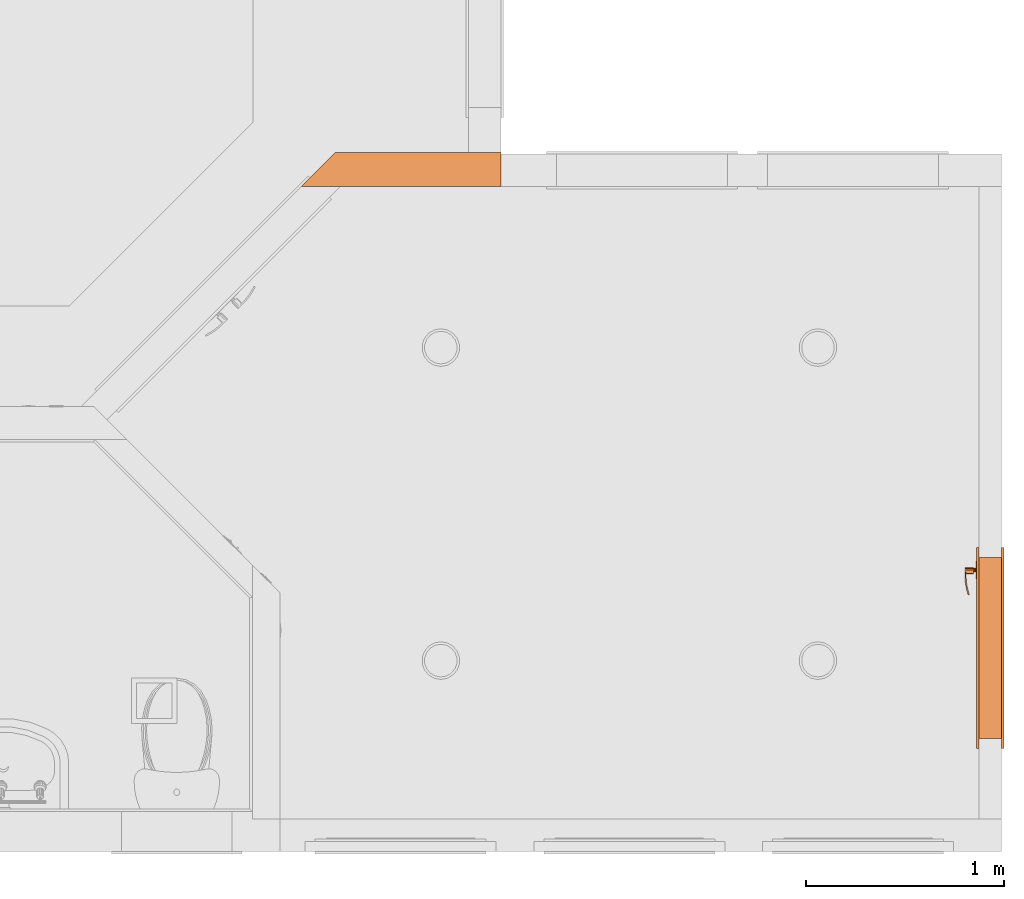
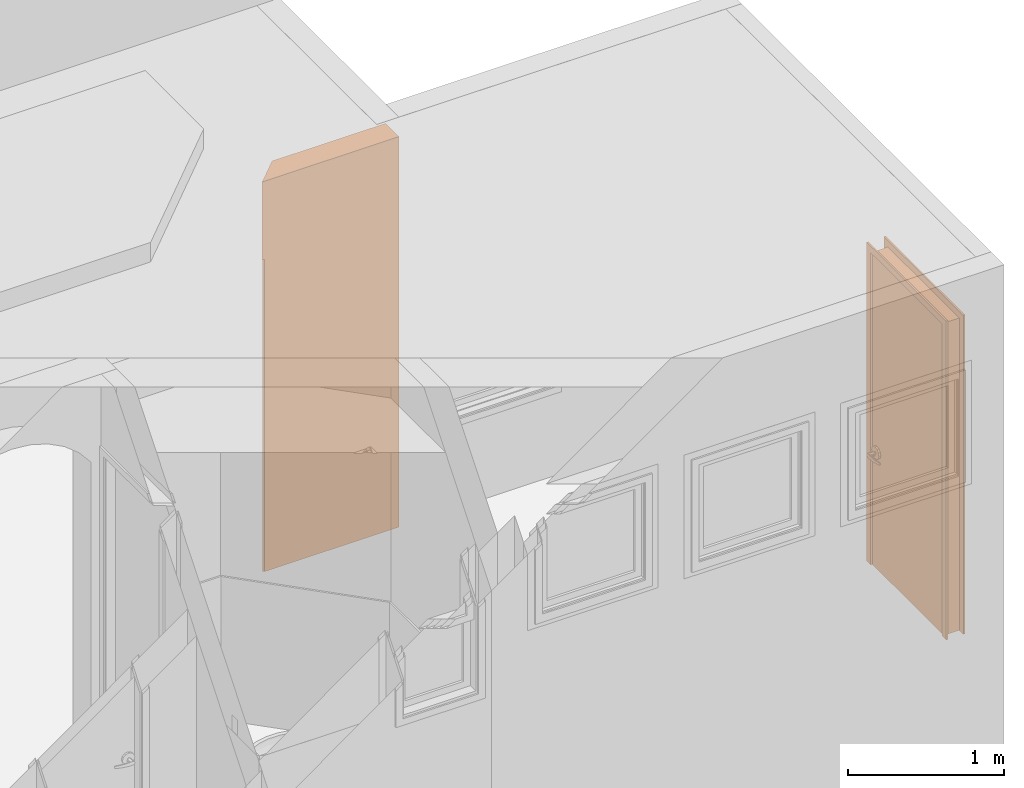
# One storey, part 100 of 103: 2 proxies.
"""IFC2X3 building model written with IfcOpenShell, lengths in inches."""

from ifc_helpers import new_model, entity, si_unit, converted_unit, derived_unit, money_unit, direction, frame, origin_with_axes, place, context, subcontext, project, spatial, open_shell, faceted_brep, surface_model, material, type_object, element, save


model = new_model("IFC2X3")

# Units and contexts
model_context = context("Model", 3, precision=0.00039370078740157, world=origin_with_axes(), true_north=direction((0.0, 1.0)))
plan_context = context("Plan", 3, precision=0.00039370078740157, world=origin_with_axes(), true_north=direction((0.0, 1.0)))
body_context = subcontext(model_context, "Body", "Model", "MODEL_VIEW")
ifc_project = project(units=[converted_unit("LENGTHUNIT", "INCH", entity("IfcPositiveLengthMeasure", 0.0254), si_unit("LENGTHUNIT", "METRE"), dimensions=[1, 0, 0, 0, 0, 0, 0]), converted_unit("AREAUNIT", "SQUARE_FOOT", entity("IfcPositiveLengthMeasure", 0.09290304), si_unit("AREAUNIT", "SQUARE_METRE"), dimensions=[2, 0, 0, 0, 0, 0, 0]), si_unit("PLANEANGLEUNIT", "RADIAN"), si_unit("SOLIDANGLEUNIT", "STERADIAN"), money_unit("USD"), converted_unit("TIMEUNIT", "Year", entity("IfcTimeMeasure", 31557600.0), si_unit("TIMEUNIT", "SECOND"), dimensions=[0, 0, 1, 0, 0, 0, 0]), si_unit("MASSUNIT", "GRAM", prefix="KILO"), si_unit("THERMODYNAMICTEMPERATUREUNIT", "DEGREE_CELSIUS"), si_unit("LUMINOUSINTENSITYUNIT", "LUMEN"), si_unit("ENERGYUNIT", "JOULE", prefix="MEGA"), derived_unit("SPECIFICHEATCAPACITYUNIT", [(si_unit("ENERGYUNIT", "JOULE"), 1), (si_unit("MASSUNIT", "GRAM", prefix="KILO"), -1), (si_unit("THERMODYNAMICTEMPERATUREUNIT", "KELVIN"), -1)])], contexts=[model_context, plan_context])

# Site, building, storey
site_placement = place(None, origin_with_axes())
site = spatial("IfcSite", under=ifc_project, at=site_placement, Name="Site", CompositionType="ELEMENT")
building_placement = place(site_placement, origin_with_axes())
building = spatial("IfcBuilding", under=site, at=building_placement, Name="Building", CompositionType="ELEMENT")
storey_placement = place(building_placement, frame((0.0, 0.0, 127.9999999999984), z_axis=(0.0, 0.0, 1.0), x_axis=(1.0, 0.0, 0.0)))
storey = spatial("IfcBuildingStorey", under=building, at=storey_placement, Name="Second Floor", CompositionType="ELEMENT", Elevation=128.0)

# Proxies
building_element_proxy_type_1 = type_object("IfcBuildingElementProxyType", Name="D1", PredefinedType="NOTDEFINED")
proxy_1_placement = place(storey_placement, frame((522.9999999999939, 22.49999999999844, 0.0), z_axis=(0.0, 0.0, 1.0), x_axis=(0.0, 1.0, 0.0)))
element("IfcBuildingElementProxy", 1, at=proxy_1_placement, inside=storey, type_object=building_element_proxy_type_1, Name="D-07", context=body_context, shape_type="SurfaceModel", body=[
    faceted_brep([(37.99999999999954, -4.999999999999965, 0.0), (35.99999999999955, -4.999999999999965, 0.0), (35.99999999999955, -4.499999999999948, 0.0), (37.99999999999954, -4.499999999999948, 0.0), (37.99999999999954, -4.999999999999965, 97.99999999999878), (35.99999999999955, -4.999999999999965, 95.9999999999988), (35.99999999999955, -4.499999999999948, 95.9999999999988), (37.99999999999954, -4.499999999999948, 97.99999999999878)], [[[0, 1, 2, 3]], [[0, 4, 5, 1]], [[1, 5, 6, 2]], [[3, 2, 6, 7]], [[4, 0, 3, 7]], [[5, 4, 7, 6]]]),
    faceted_brep([(-1.999999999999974, -4.999999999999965, 97.99999999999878), (0.0, -4.999999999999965, 95.9999999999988), (0.0, -4.499999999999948, 95.9999999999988), (-1.999999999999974, -4.499999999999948, 97.99999999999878), (-1.999999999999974, -4.999999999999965, 0.0), (0.0, -4.999999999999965, 0.0), (0.0, -4.499999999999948, 0.0), (-1.999999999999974, -4.499999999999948, 0.0)], [[[0, 1, 2, 3]], [[0, 4, 5, 1]], [[1, 5, 6, 2]], [[3, 2, 6, 7]], [[4, 0, 3, 7]], [[5, 4, 7, 6]]]),
    faceted_brep([(37.99999999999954, -4.999999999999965, 97.99999999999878), (35.99999999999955, -4.999999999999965, 95.9999999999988), (35.99999999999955, -4.499999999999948, 95.9999999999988), (37.99999999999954, -4.499999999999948, 97.99999999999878), (-1.999999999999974, -4.999999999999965, 97.99999999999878), (0.0, -4.999999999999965, 95.9999999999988), (0.0, -4.499999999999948, 95.9999999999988), (-1.999999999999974, -4.499999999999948, 97.99999999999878)], [[[0, 1, 2, 3]], [[0, 4, 5, 1]], [[1, 5, 6, 2]], [[3, 2, 6, 7]], [[4, 0, 3, 7]], [[5, 4, 7, 6]]]),
    faceted_brep([(37.99999999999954, 0.5000000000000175, 0.0), (37.99999999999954, 0.0, 0.0), (35.99999999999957, 0.0, 0.0), (35.99999999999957, 0.5000000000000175, 0.0), (37.99999999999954, 0.4999999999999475, 97.99999999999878), (37.99999999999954, 0.0, 97.99999999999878), (35.99999999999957, 0.0, 95.9999999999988), (35.99999999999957, 0.4999999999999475, 95.9999999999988)], [[[0, 1, 2, 3]], [[4, 5, 1, 0]], [[1, 5, 6, 2]], [[3, 2, 6, 7]], [[0, 3, 7, 4]], [[7, 6, 5, 4]]]),
    faceted_brep([(-1.999999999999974, 0.4999999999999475, 97.99999999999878), (-1.999999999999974, 0.0, 97.99999999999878), (0.0, 0.0, 95.9999999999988), (0.0, 0.4999999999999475, 95.9999999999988), (-1.999999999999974, 0.5000000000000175, 0.0), (-1.999999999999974, 0.0, 0.0), (0.0, 0.0, 0.0), (0.0, 0.5000000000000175, 0.0)], [[[0, 1, 2, 3]], [[4, 5, 1, 0]], [[1, 5, 6, 2]], [[3, 2, 6, 7]], [[0, 3, 7, 4]], [[7, 6, 5, 4]]]),
    faceted_brep([(37.99999999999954, 0.4999999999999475, 97.99999999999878), (37.99999999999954, 0.0, 97.99999999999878), (35.99999999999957, 0.0, 95.9999999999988), (35.99999999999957, 0.4999999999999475, 95.9999999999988), (-1.999999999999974, 0.4999999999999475, 97.99999999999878), (-1.999999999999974, 0.0, 97.99999999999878), (0.0, 0.0, 95.9999999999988), (0.0, 0.4999999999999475, 95.9999999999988)], [[[0, 1, 2, 3]], [[4, 5, 1, 0]], [[1, 5, 6, 2]], [[3, 2, 6, 7]], [[0, 3, 7, 4]], [[7, 6, 5, 4]]]),
    faceted_brep([(35.99999999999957, 0.0, 0.0), (35.99999999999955, -4.499999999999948, 0.0), (35.49999999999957, -4.499999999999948, 0.0), (35.49999999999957, 0.0, 0.0), (35.99999999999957, 0.0, 95.49999999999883), (35.99999999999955, -4.499999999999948, 95.49999999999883), (35.49999999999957, -4.499999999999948, 95.49999999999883), (35.49999999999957, 0.0, 95.49999999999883)], [[[0, 1, 2, 3]], [[4, 5, 1, 0]], [[1, 5, 6, 2]], [[3, 2, 6, 7]], [[0, 3, 7, 4]], [[7, 6, 5, 4]]]),
    faceted_brep([(0.0, 0.0, 0.0), (0.0, -4.499999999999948, 0.0), (0.0, -4.499999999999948, 95.49999999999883), (0.0, 0.0, 95.49999999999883), (0.4999999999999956, 0.0, 0.0), (0.4999999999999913, -4.499999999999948, 0.0), (0.4999999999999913, -4.499999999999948, 95.49999999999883), (0.4999999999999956, 0.0, 95.49999999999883)], [[[0, 1, 2, 3]], [[4, 5, 1, 0]], [[1, 5, 6, 2]], [[3, 2, 6, 7]], [[0, 3, 7, 4]], [[7, 6, 5, 4]]]),
    faceted_brep([(35.99999999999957, 0.0, 95.9999999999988), (35.99999999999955, -4.499999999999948, 95.9999999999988), (35.99999999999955, -4.499999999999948, 95.49999999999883), (35.99999999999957, 0.0, 95.49999999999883), (0.0, 0.0, 95.9999999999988), (0.0, -4.499999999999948, 95.9999999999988), (0.0, -4.499999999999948, 95.49999999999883), (0.4999999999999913, -4.499999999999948, 95.49999999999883), (35.49999999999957, -4.499999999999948, 95.49999999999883), (35.49999999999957, 0.0, 95.49999999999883), (0.4999999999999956, 0.0, 95.49999999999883), (0.0, 0.0, 95.49999999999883)], [[[0, 1, 2, 3]], [[4, 5, 1, 0]], [[1, 5, 6, 7, 8, 2]], [[3, 2, 8, 9]], [[0, 3, 9, 10, 11, 4]], [[11, 6, 5, 4]], [[10, 7, 6, 11]], [[9, 8, 7, 10]]]),
    surface_model("IfcShellBasedSurfaceModel", [(31.94865528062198, -2.340551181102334, 36.89566929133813), (31.94865528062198, -2.336614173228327, 36.89566929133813), (31.70866141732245, -2.336614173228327, 35.99999999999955), (31.70866141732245, -2.340551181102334, 35.99999999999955), (32.60433070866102, -2.340551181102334, 37.55134471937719), (32.60433070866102, -2.336614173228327, 37.55134471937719), (31.94865528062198, -1.753937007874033, 36.89566929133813), (31.70866141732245, -1.753937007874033, 35.99999999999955), (31.94865528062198, -2.336614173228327, 35.104330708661), (31.94865528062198, -2.340551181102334, 35.104330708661), (32.60433070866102, -2.340551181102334, 34.44865528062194), (33.49999999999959, -2.340551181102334, 34.20866141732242), (34.39566929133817, -2.340551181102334, 34.44865528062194), (35.05134471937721, -2.340551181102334, 35.104330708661), (35.29133858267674, -2.340551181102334, 35.99999999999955), (35.05134471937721, -2.340551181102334, 36.89566929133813), (34.39566929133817, -2.340551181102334, 37.55134471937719), (33.49999999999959, -2.340551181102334, 37.79133858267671), (33.49999999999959, -2.336614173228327, 37.79133858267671), (32.60433070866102, -1.753937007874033, 37.55134471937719), (31.94865528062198, -1.749999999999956, 36.89566929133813), (31.70866141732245, -1.749999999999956, 35.99999999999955), (31.94865528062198, -1.753937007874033, 35.104330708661), (32.60433070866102, -2.336614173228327, 34.44865528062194), (33.49999999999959, -2.336614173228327, 34.20866141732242), (34.39566929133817, -2.336614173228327, 34.44865528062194), (35.05134471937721, -2.336614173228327, 35.104330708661), (35.29133858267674, -2.336614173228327, 35.99999999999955), (35.05134471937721, -2.336614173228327, 36.89566929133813), (34.39566929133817, -2.336614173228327, 37.55134471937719), (33.49999999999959, -1.753937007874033, 37.79133858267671), (32.60433070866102, -1.749999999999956, 37.55134471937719), (31.94865528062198, -1.749999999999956, 35.104330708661), (32.60433070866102, -1.753937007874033, 34.44865528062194), (33.49999999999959, -1.753937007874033, 34.20866141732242), (34.39566929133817, -1.753937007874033, 34.44865528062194), (35.05134471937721, -1.753937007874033, 35.104330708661), (35.29133858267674, -1.753937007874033, 35.99999999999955), (35.05134471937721, -1.753937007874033, 36.89566929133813), (34.39566929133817, -1.753937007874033, 37.55134471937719), (33.49999999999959, -1.749999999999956, 37.79133858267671), (32.60433070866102, -1.749999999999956, 34.44865528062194), (33.49999999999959, -1.749999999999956, 34.20866141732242), (34.39566929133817, -1.749999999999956, 34.44865528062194), (35.05134471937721, -1.749999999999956, 35.104330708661), (35.29133858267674, -1.749999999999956, 35.99999999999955), (35.05134471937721, -1.749999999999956, 36.89566929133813), (34.39566929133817, -1.749999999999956, 37.55134471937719)], [open_shell([[[0, 1, 2, 3]], [[4, 5, 1, 0]], [[1, 6, 7, 2]], [[3, 2, 8, 9]], [[3, 9, 10, 11, 12, 13, 14, 15, 16, 17, 4, 0]], [[17, 18, 5, 4]], [[5, 19, 6, 1]], [[6, 20, 21, 7]], [[2, 7, 22, 8]], [[9, 8, 23, 10]], [[10, 23, 24, 11]], [[11, 24, 25, 12]], [[12, 25, 26, 13]], [[13, 26, 27, 14]], [[14, 27, 28, 15]], [[15, 28, 29, 16]], [[16, 29, 18, 17]], [[18, 30, 19, 5]], [[19, 31, 20, 6]], [[7, 21, 32, 22]], [[8, 22, 33, 23]], [[23, 33, 34, 24]], [[24, 34, 35, 25]], [[25, 35, 36, 26]], [[26, 36, 37, 27]], [[27, 37, 38, 28]], [[28, 38, 39, 29]], [[29, 39, 30, 18]], [[30, 40, 31, 19]], [[22, 32, 41, 33]], [[33, 41, 42, 34]], [[34, 42, 43, 35]], [[35, 43, 44, 36]], [[36, 44, 45, 37]], [[37, 45, 46, 38]], [[38, 46, 47, 39]], [[39, 47, 40, 30]]])]),
    faceted_brep([(33.69685039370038, -2.340551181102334, 35.65904511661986), (33.49999999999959, -2.340551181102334, 35.60629921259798), (33.30314960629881, -2.340551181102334, 35.65904511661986), (33.15904511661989, -2.340551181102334, 35.80314960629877), (33.10629921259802, -2.340551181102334, 35.99999999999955), (33.15904511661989, -2.340551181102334, 36.19685039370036), (33.30314960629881, -2.340551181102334, 36.34095488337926), (33.49999999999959, -2.340551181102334, 36.39370078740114), (33.69685039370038, -2.340551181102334, 36.34095488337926), (33.84095488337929, -2.340551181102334, 36.19685039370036), (33.89370078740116, -2.340551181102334, 35.99999999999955), (33.84095488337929, -2.340551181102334, 35.80314960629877), (33.69685039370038, -2.852362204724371, 35.65904511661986), (33.49999999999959, -2.852362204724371, 35.60629921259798), (33.30314960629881, -2.852362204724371, 35.65904511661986), (33.15904511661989, -2.852362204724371, 35.80314960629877), (33.10629921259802, -2.852362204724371, 35.99999999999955), (33.15904511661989, -2.852362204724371, 36.19685039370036), (33.30314960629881, -2.852362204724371, 36.34095488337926), (33.49999999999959, -2.852362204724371, 36.39370078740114), (33.69685039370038, -2.852362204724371, 36.34095488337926), (33.84095488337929, -2.852362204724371, 36.19685039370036), (33.89370078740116, -2.852362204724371, 35.99999999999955), (33.84095488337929, -2.852362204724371, 35.80314960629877)], [[[0, 1, 2, 3, 4, 5, 6, 7, 8, 9, 10, 11]], [[0, 12, 13, 1]], [[1, 13, 14, 2]], [[2, 14, 15, 3]], [[3, 15, 16, 4]], [[4, 16, 17, 5]], [[5, 17, 18, 6]], [[6, 18, 19, 7]], [[7, 19, 20, 8]], [[8, 20, 21, 9]], [[9, 21, 22, 10]], [[10, 22, 23, 11]], [[11, 23, 12, 0]], [[12, 23, 22, 21, 20, 19, 18, 17, 16, 15, 14, 13]]]),
    faceted_brep([(33.49999999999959, -2.852362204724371, 36.55118110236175), (33.49999999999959, -4.269685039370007, 36.55118110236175), (33.77559055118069, -4.269685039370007, 36.47733683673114), (33.77559055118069, -2.852362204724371, 36.47733683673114), (33.10629921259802, -2.852362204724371, 36.47244094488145), (33.10629921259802, -4.269685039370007, 36.47244094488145), (32.87352117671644, -4.269685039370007, 36.35358914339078), (32.73705189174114, -4.269685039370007, 36.13068221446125), (32.73705189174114, -4.269685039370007, 35.86931778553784), (32.87352117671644, -4.269685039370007, 35.64641085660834), (33.10629921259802, -4.269685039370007, 35.52755905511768), (33.49999999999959, -4.269685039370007, 35.44881889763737), (33.77559055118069, -4.269685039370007, 35.52266316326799), (33.97733683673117, -4.269685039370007, 35.72440944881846), (34.05118110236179, -4.269685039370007, 35.99999999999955), (33.97733683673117, -4.269685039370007, 36.27559055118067), (33.97733683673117, -2.852362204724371, 36.27559055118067), (34.05118110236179, -2.852362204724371, 35.99999999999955), (33.97733683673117, -2.852362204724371, 35.72440944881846), (33.77559055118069, -2.852362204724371, 35.52266316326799), (33.49999999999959, -2.852362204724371, 35.44881889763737), (33.10629921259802, -2.852362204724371, 35.52755905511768), (32.87352117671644, -2.852362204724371, 35.64641085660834), (32.73705189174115, -2.852362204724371, 35.86931778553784), (32.73705189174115, -2.852362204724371, 36.13068221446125), (32.87352117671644, -2.852362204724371, 36.35358914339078)], [[[0, 1, 2, 3]], [[4, 5, 1, 0]], [[1, 5, 6, 7, 8, 9, 10, 11, 12, 13, 14, 15, 2]], [[3, 2, 15, 16]], [[0, 3, 16, 17, 18, 19, 20, 21, 22, 23, 24, 25, 4]], [[25, 6, 5, 4]], [[24, 7, 6, 25]], [[23, 8, 7, 24]], [[22, 9, 8, 23]], [[21, 10, 9, 22]], [[20, 11, 10, 21]], [[19, 12, 11, 20]], [[18, 13, 12, 19]], [[17, 14, 13, 18]], [[16, 15, 14, 17]]]),
    surface_model("IfcShellBasedSurfaceModel", [(33.49999999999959, -4.269685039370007, 36.55118110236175), (33.49999999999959, -4.545275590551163, 36.55118110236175), (33.77559055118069, -4.545275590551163, 36.47733683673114), (33.77559055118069, -4.269685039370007, 36.47733683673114), (32.51574803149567, -4.269685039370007, 36.55118110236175), (32.51574803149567, -4.545275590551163, 36.55118110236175), (32.51574803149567, -4.545275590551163, 35.44881889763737), (33.49999999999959, -4.545275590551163, 35.44881889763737), (33.77559055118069, -4.545275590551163, 35.52266316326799), (33.97733683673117, -4.545275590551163, 35.72440944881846), (34.05118110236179, -4.545275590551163, 35.99999999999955), (33.97733683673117, -4.545275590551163, 36.27559055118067), (33.97733683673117, -4.269685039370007, 36.27559055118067), (34.05118110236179, -4.269685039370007, 35.99999999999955), (33.97733683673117, -4.269685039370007, 35.72440944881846), (33.77559055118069, -4.269685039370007, 35.52266316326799), (33.49999999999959, -4.269685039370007, 35.44881889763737), (32.51574803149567, -4.269685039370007, 35.44881889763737)], [open_shell([[[0, 1, 2, 3]], [[4, 5, 1, 0]], [[1, 5, 6, 7, 8, 9, 10, 11, 2]], [[3, 2, 11, 12]], [[0, 3, 12, 13, 14, 15, 16, 17, 4]], [[16, 7, 6, 17]], [[15, 8, 7, 16]], [[14, 9, 8, 15]], [[13, 10, 9, 14]], [[12, 11, 10, 13]]])]),
    surface_model("IfcShellBasedSurfaceModel", [(32.51574803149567, -4.269685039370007, 35.44881889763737), (31.98803506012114, -4.545275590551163, 35.47974008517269), (32.00006760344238, -4.269685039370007, 35.47974008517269), (32.51574803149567, -4.545275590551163, 35.44881889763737), (30.93662533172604, -4.453289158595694, 35.54158246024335), (32.00006760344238, -4.269685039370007, 36.52025991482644), (32.51574803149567, -4.269685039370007, 36.55118110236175), (32.51574803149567, -4.545275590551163, 36.55118110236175), (31.98803506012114, -4.545275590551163, 36.52025991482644), (30.93662533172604, -4.453289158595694, 36.45841753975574), (30.97263138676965, -4.179796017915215, 35.54158246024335), (30.97263138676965, -4.179796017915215, 36.45841753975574), (29.89723368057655, -4.270016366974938, 36.39657516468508), (29.89723368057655, -4.270016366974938, 35.60342483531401), (29.95693921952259, -4.000702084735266, 35.60342483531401), (29.95693921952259, -4.000702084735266, 36.39657516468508), (28.87777050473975, -3.996852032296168, 36.33473278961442), (28.87777050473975, -3.996852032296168, 35.66526721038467), (28.96072113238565, -3.733766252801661, 35.66526721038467), (28.96072113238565, -3.733766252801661, 36.33473278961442), (28.56058250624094, -3.881405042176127, 36.3149606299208), (28.56058250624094, -3.881405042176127, 35.68503937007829), (28.65076543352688, -3.620951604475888, 35.68503937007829), (28.65076543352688, -3.620951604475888, 36.3149606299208)], [open_shell([[[0, 1, 2]], [[0, 3, 1]], [[2, 1, 4]], [[0, 2, 5, 6]], [[3, 7, 8, 1]], [[1, 8, 9, 4]], [[2, 4, 10]], [[2, 10, 11, 5]], [[5, 7, 6]], [[5, 8, 7]], [[11, 9, 8]], [[4, 9, 12, 13]], [[10, 4, 13]], [[10, 14, 15, 11]], [[11, 8, 5]], [[15, 9, 11]], [[15, 12, 9]], [[13, 12, 16, 17]], [[10, 13, 14]], [[14, 18, 19, 15]], [[19, 12, 15]], [[19, 16, 12]], [[17, 16, 20, 21]], [[14, 13, 17]], [[14, 17, 18]], [[18, 22, 23, 19]], [[23, 16, 19]], [[23, 20, 16]], [[22, 21, 20, 23]], [[18, 17, 21]], [[18, 21, 22]]])]),
    surface_model("IfcShellBasedSurfaceModel", [(31.94865528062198, 0.5905511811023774, 36.89566929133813), (31.70866141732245, 0.5905511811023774, 35.99999999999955), (31.70866141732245, 0.5866141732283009, 35.99999999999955), (31.94865528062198, 0.5866141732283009, 36.89566929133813), (32.60433070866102, 0.5905511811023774, 37.55134471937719), (33.49999999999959, 0.5905511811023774, 37.79133858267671), (34.39566929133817, 0.5905511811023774, 37.55134471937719), (35.05134471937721, 0.5905511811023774, 36.89566929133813), (35.29133858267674, 0.5905511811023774, 35.99999999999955), (35.05134471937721, 0.5905511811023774, 35.104330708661), (34.39566929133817, 0.5905511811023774, 34.44865528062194), (33.49999999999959, 0.5905511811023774, 34.20866141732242), (32.60433070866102, 0.5905511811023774, 34.44865528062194), (31.94865528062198, 0.5905511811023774, 35.104330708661), (31.94865528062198, 0.5866141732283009, 35.104330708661), (31.70866141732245, 0.003937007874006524, 35.99999999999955), (31.94865528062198, 0.003937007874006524, 36.89566929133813), (32.60433070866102, 0.5866141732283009, 37.55134471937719), (33.49999999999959, 0.5866141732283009, 37.79133858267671), (34.39566929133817, 0.5866141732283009, 37.55134471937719), (35.05134471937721, 0.5866141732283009, 36.89566929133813), (35.29133858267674, 0.5866141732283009, 35.99999999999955), (35.05134471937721, 0.5866141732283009, 35.104330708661), (34.39566929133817, 0.5866141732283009, 34.44865528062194), (33.49999999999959, 0.5866141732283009, 34.20866141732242), (32.60433070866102, 0.5866141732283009, 34.44865528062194), (31.94865528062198, 0.003937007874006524, 35.104330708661), (31.70866141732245, 0.0, 35.99999999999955), (31.94865528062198, 0.0, 36.89566929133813), (32.60433070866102, 0.003937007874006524, 37.55134471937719), (33.49999999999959, 0.003937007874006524, 37.79133858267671), (34.39566929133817, 0.003937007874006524, 37.55134471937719), (35.05134471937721, 0.003937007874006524, 36.89566929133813), (35.29133858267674, 0.003937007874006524, 35.99999999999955), (35.05134471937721, 0.003937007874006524, 35.104330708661), (34.39566929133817, 0.003937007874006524, 34.44865528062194), (33.49999999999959, 0.003937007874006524, 34.20866141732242), (32.60433070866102, 0.003937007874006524, 34.44865528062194), (31.94865528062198, 0.0, 35.104330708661), (32.60433070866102, 0.0, 37.55134471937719), (33.49999999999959, 0.0, 37.79133858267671), (34.39566929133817, 0.0, 37.55134471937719), (35.05134471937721, 0.0, 36.89566929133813), (35.29133858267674, 0.0, 35.99999999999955), (35.05134471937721, 0.0, 35.104330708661), (34.39566929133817, 0.0, 34.44865528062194), (33.49999999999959, 0.0, 34.20866141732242), (32.60433070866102, 0.0, 34.44865528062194)], [open_shell([[[0, 1, 2, 3]], [[1, 0, 4, 5, 6, 7, 8, 9, 10, 11, 12, 13]], [[1, 13, 14, 2]], [[3, 2, 15, 16]], [[4, 0, 3, 17]], [[5, 4, 17, 18]], [[6, 5, 18, 19]], [[7, 6, 19, 20]], [[8, 7, 20, 21]], [[9, 8, 21, 22]], [[10, 9, 22, 23]], [[11, 10, 23, 24]], [[12, 11, 24, 25]], [[13, 12, 25, 14]], [[2, 14, 26, 15]], [[16, 15, 27, 28]], [[17, 3, 16, 29]], [[18, 17, 29, 30]], [[19, 18, 30, 31]], [[20, 19, 31, 32]], [[21, 20, 32, 33]], [[22, 21, 33, 34]], [[23, 22, 34, 35]], [[24, 23, 35, 36]], [[25, 24, 36, 37]], [[14, 25, 37, 26]], [[15, 26, 38, 27]], [[29, 16, 28, 39]], [[30, 29, 39, 40]], [[31, 30, 40, 41]], [[32, 31, 41, 42]], [[33, 32, 42, 43]], [[34, 33, 43, 44]], [[35, 34, 44, 45]], [[36, 35, 45, 46]], [[37, 36, 46, 47]], [[26, 37, 47, 38]]])]),
    faceted_brep([(33.69685039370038, 0.5905511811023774, 35.65904511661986), (33.84095488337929, 0.5905511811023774, 35.80314960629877), (33.89370078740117, 0.5905511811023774, 35.99999999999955), (33.84095488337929, 0.5905511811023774, 36.19685039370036), (33.69685039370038, 0.5905511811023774, 36.34095488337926), (33.49999999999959, 0.5905511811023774, 36.39370078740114), (33.30314960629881, 0.5905511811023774, 36.34095488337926), (33.1590451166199, 0.5905511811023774, 36.19685039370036), (33.10629921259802, 0.5905511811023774, 35.99999999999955), (33.1590451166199, 0.5905511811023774, 35.80314960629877), (33.30314960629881, 0.5905511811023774, 35.65904511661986), (33.49999999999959, 0.5905511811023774, 35.60629921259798), (33.69685039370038, 1.102362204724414, 35.65904511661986), (33.84095488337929, 1.102362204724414, 35.80314960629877), (33.89370078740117, 1.102362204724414, 35.99999999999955), (33.84095488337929, 1.102362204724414, 36.19685039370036), (33.69685039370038, 1.102362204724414, 36.34095488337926), (33.49999999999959, 1.102362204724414, 36.39370078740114), (33.30314960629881, 1.102362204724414, 36.34095488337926), (33.1590451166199, 1.102362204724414, 36.19685039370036), (33.10629921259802, 1.102362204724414, 35.99999999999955), (33.1590451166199, 1.102362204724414, 35.80314960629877), (33.30314960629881, 1.102362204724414, 35.65904511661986), (33.49999999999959, 1.102362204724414, 35.60629921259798)], [[[0, 1, 2, 3, 4, 5, 6, 7, 8, 9, 10, 11]], [[1, 0, 12, 13]], [[2, 1, 13, 14]], [[3, 2, 14, 15]], [[4, 3, 15, 16]], [[5, 4, 16, 17]], [[6, 5, 17, 18]], [[7, 6, 18, 19]], [[8, 7, 19, 20]], [[9, 8, 20, 21]], [[10, 9, 21, 22]], [[11, 10, 22, 23]], [[0, 11, 23, 12]], [[12, 23, 22, 21, 20, 19, 18, 17, 16, 15, 14, 13]]]),
    faceted_brep([(33.49999999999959, 1.102362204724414, 36.55118110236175), (33.77559055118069, 1.102362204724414, 36.47733683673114), (33.77559055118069, 2.51968503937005, 36.47733683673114), (33.49999999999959, 2.51968503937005, 36.55118110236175), (33.10629921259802, 1.102362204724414, 36.47244094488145), (32.87352117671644, 1.102362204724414, 36.35358914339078), (32.73705189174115, 1.102362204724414, 36.13068221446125), (32.73705189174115, 1.102362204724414, 35.86931778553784), (32.87352117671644, 1.102362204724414, 35.64641085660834), (33.10629921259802, 1.102362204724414, 35.52755905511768), (33.49999999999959, 1.102362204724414, 35.44881889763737), (33.77559055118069, 1.102362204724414, 35.52266316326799), (33.97733683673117, 1.102362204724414, 35.72440944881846), (34.0511811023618, 1.102362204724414, 35.99999999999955), (33.97733683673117, 1.102362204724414, 36.27559055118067), (33.97733683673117, 2.51968503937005, 36.27559055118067), (34.0511811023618, 2.51968503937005, 35.99999999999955), (33.97733683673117, 2.51968503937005, 35.72440944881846), (33.77559055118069, 2.51968503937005, 35.52266316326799), (33.49999999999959, 2.51968503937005, 35.44881889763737), (33.10629921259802, 2.51968503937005, 35.52755905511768), (32.87352117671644, 2.51968503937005, 35.64641085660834), (32.73705189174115, 2.51968503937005, 35.86931778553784), (32.73705189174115, 2.51968503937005, 36.13068221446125), (32.87352117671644, 2.51968503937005, 36.35358914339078), (33.10629921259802, 2.51968503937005, 36.47244094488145)], [[[0, 1, 2, 3]], [[0, 4, 5, 6, 7, 8, 9, 10, 11, 12, 13, 14, 1]], [[1, 14, 15, 2]], [[3, 2, 15, 16, 17, 18, 19, 20, 21, 22, 23, 24, 25]], [[4, 0, 3, 25]], [[5, 4, 25, 24]], [[6, 5, 24, 23]], [[7, 6, 23, 22]], [[8, 7, 22, 21]], [[9, 8, 21, 20]], [[10, 9, 20, 19]], [[11, 10, 19, 18]], [[12, 11, 18, 17]], [[13, 12, 17, 16]], [[14, 13, 16, 15]]]),
    surface_model("IfcShellBasedSurfaceModel", [(33.49999999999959, 2.51968503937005, 36.55118110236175), (33.77559055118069, 2.51968503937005, 36.47733683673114), (33.77559055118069, 2.795275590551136, 36.47733683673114), (33.49999999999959, 2.795275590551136, 36.55118110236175), (32.51574803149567, 2.51968503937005, 36.55118110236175), (32.51574803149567, 2.51968503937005, 35.44881889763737), (33.49999999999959, 2.51968503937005, 35.44881889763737), (33.77559055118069, 2.51968503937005, 35.52266316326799), (33.97733683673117, 2.51968503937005, 35.72440944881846), (34.0511811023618, 2.51968503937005, 35.99999999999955), (33.97733683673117, 2.51968503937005, 36.27559055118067), (33.97733683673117, 2.795275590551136, 36.27559055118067), (34.0511811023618, 2.795275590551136, 35.99999999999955), (33.97733683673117, 2.795275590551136, 35.72440944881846), (33.77559055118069, 2.795275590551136, 35.52266316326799), (33.49999999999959, 2.795275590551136, 35.44881889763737), (32.51574803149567, 2.795275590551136, 35.44881889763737), (32.51574803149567, 2.795275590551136, 36.55118110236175)], [open_shell([[[0, 1, 2, 3]], [[0, 4, 5, 6, 7, 8, 9, 10, 1]], [[1, 10, 11, 2]], [[3, 2, 11, 12, 13, 14, 15, 16, 17]], [[4, 0, 3, 17]], [[6, 5, 16, 15]], [[7, 6, 15, 14]], [[8, 7, 14, 13]], [[9, 8, 13, 12]], [[10, 9, 12, 11]]])]),
    surface_model("IfcShellBasedSurfaceModel", [(32.51574803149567, 2.51968503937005, 35.44881889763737), (32.00006760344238, 2.51968503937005, 35.47974008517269), (31.98803506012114, 2.795275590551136, 35.47974008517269), (32.51574803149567, 2.51968503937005, 36.55118110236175), (32.00006760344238, 2.51968503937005, 36.52025991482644), (30.93662533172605, 2.703289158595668, 35.54158246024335), (32.51574803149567, 2.795275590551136, 35.44881889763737), (32.51574803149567, 2.795275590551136, 36.55118110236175), (30.97263138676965, 2.429796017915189, 36.45841753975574), (30.97263138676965, 2.429796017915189, 35.54158246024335), (30.93662533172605, 2.703289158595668, 36.45841753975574), (31.98803506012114, 2.795275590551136, 36.52025991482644), (29.9569392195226, 2.250702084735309, 36.39657516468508), (29.9569392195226, 2.250702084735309, 35.60342483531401), (29.89723368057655, 2.520016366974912, 35.60342483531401), (29.89723368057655, 2.520016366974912, 36.39657516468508), (28.96072113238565, 1.983766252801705, 36.33473278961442), (28.96072113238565, 1.983766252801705, 35.66526721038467), (28.87777050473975, 2.246852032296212, 35.66526721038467), (28.87777050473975, 2.246852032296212, 36.33473278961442), (28.65076543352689, 1.870951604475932, 36.3149606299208), (28.65076543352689, 1.870951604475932, 35.68503937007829), (28.56058250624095, 2.131405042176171, 35.68503937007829), (28.56058250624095, 2.131405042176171, 36.3149606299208)], [open_shell([[[0, 1, 2]], [[0, 3, 4, 1]], [[1, 5, 2]], [[0, 2, 6]], [[4, 3, 7]], [[1, 4, 8, 9]], [[1, 9, 5]], [[2, 5, 10, 11]], [[6, 2, 11, 7]], [[4, 7, 11]], [[8, 4, 11]], [[9, 8, 12, 13]], [[9, 14, 5]], [[5, 14, 15, 10]], [[8, 11, 10]], [[12, 8, 10]], [[13, 12, 16, 17]], [[9, 13, 14]], [[14, 18, 19, 15]], [[12, 10, 15]], [[16, 12, 15]], [[17, 16, 20, 21]], [[13, 17, 18]], [[13, 18, 14]], [[18, 22, 23, 19]], [[16, 15, 19]], [[20, 16, 19]], [[21, 20, 23, 22]], [[17, 21, 22]], [[17, 22, 18]], [[20, 19, 23]]])]),
    faceted_brep([(35.46062992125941, -1.749999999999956, 0.03937007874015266), (35.46062992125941, -1.749999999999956, 95.46062992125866), (0.5393700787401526, -1.749999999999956, 95.46062992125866), (0.5393700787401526, -1.749999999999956, 0.03937007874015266), (35.46062992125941, 0.0, 0.03937007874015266), (35.46062992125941, 0.0, 95.46062992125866), (0.5393700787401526, 0.0, 95.46062992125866), (0.5393700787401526, 0.0, 0.03937007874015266)], [[[0, 1, 2, 3]], [[4, 5, 1, 0]], [[2, 1, 5, 6]], [[3, 2, 6, 7]], [[7, 4, 0, 3]], [[7, 6, 5, 4]]]),
    faceted_brep([(0.4999999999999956, 0.0, 0.0), (35.49999999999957, 0.0, 0.0), (35.49999999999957, -1.749999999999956, 0.0), (0.4999999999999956, -1.749999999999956, 0.0), (0.4999999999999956, 0.0, 95.49999999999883), (35.49999999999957, 0.0, 95.49999999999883), (0.5393700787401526, 0.0, 0.03937007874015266), (35.46062992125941, 0.0, 0.03937007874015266), (35.46062992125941, 0.0, 95.46062992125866), (0.5393700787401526, 0.0, 95.46062992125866), (35.49999999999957, -1.749999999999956, 95.49999999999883), (0.4999999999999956, -1.749999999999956, 95.49999999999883), (0.5393700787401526, -1.749999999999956, 0.03937007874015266), (0.5393700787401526, -1.749999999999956, 95.46062992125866), (35.46062992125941, -1.749999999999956, 95.46062992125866), (35.46062992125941, -1.749999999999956, 0.03937007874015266)], [[[0, 1, 2, 3]], [[0, 4, 5, 1], [6, 7, 8, 9]], [[1, 5, 10, 2]], [[3, 2, 10, 11], [12, 13, 14, 15]], [[4, 0, 3, 11]], [[5, 4, 11, 10]], [[7, 6, 12, 15]], [[8, 7, 15, 14]], [[9, 8, 14, 13]], [[6, 9, 13, 12]]]),
])
ifc_material = material(Name="Generic - Structural")
building_element_proxy_type_2 = type_object("IfcBuildingElementProxyType", Name="Generic - Structural 6 3/4\"", PredefinedType="NOTDEFINED")
proxy_2_placement = place(storey_placement, frame((395.9999999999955, 132.2499999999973, 0.0), z_axis=(0.0, 0.0, 1.0), x_axis=(1.0, 0.0, 0.0)))
element("IfcBuildingElementProxy", 2, at=proxy_2_placement, inside=storey, type_object=building_element_proxy_type_2, material=ifc_material, Name="SW - 080", context=body_context, shape_type="Brep", body=[
    faceted_brep([(-7.071067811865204, 0.0, 95.9999999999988), (-7.071067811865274, 0.0, 0.0), (32.0, 0.0, 0.0), (32.0, 0.0, 119.9999999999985), (-7.778174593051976, 0.0, 119.9999999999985), (-7.778174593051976, 0.0, 95.9999999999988), (-7.42462120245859, 0.3535533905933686, 95.9999999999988), (-7.42462120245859, 0.3535533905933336, 0.0), (-1.028174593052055, 6.749999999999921, 0.0), (32.0, 6.749999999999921, 0.0), (32.0, 6.749999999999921, 119.9999999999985), (-1.028174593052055, 6.749999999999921, 119.9999999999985)], [[[0, 1, 2, 3, 4, 5]], [[1, 0, 6, 7]], [[1, 7, 8, 9, 2]], [[9, 10, 3, 2]], [[11, 4, 3, 10]], [[6, 5, 4, 11, 8, 7]], [[0, 5, 6]], [[8, 11, 10, 9]]]),
])

save(model, "model.ifc")
